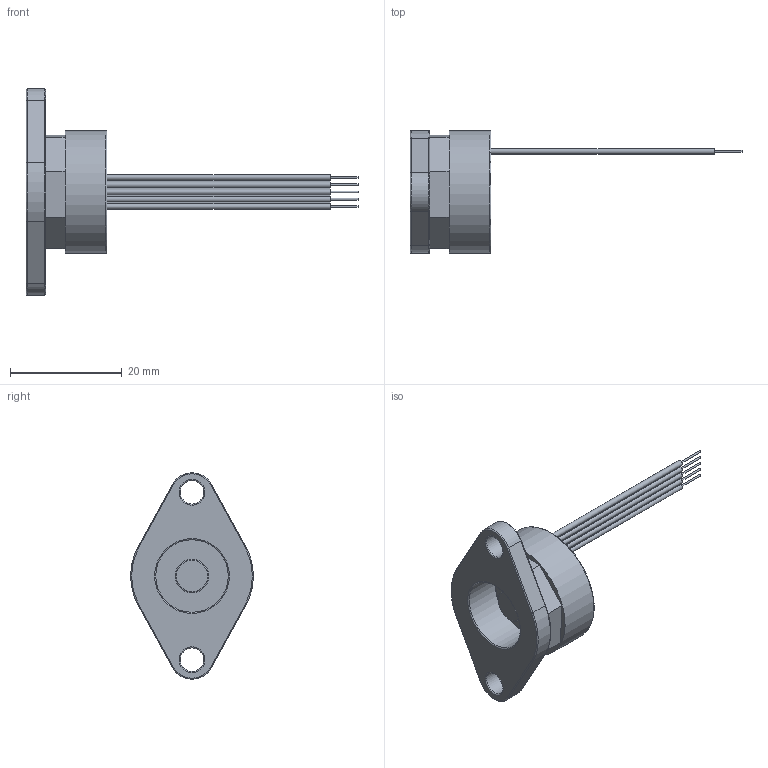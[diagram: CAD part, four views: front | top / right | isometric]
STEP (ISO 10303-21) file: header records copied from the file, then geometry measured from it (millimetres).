
FILE_DESCRIPTION (( 'STEP AP214' ), '1' );
FILE_NAME ('XXXXXX_0168.2.1_Kit_00.STEP', '2018-05-30T12:26:10', ( '' ), ( '' ), 'SwSTEP 2.0', 'SolidWorks 2017', '' );
FILE_SCHEMA (( 'AUTOMOTIVE_DESIGN' ));
Length unit declared in the file: millimetre
Products named in the file (12): 122551_0055.1.6_Magnet 6x3mm_00; 09_VergusmasseR022_00; 01_Gehäuse_RO22_00; XXXXXX_0168.2.1_Kit_00; 129208_0168.1.2_HalteFlansch_00; 05_Flachbandkabel5x150_00
Assembly tree (7 placements, depth 2):
  09_VergusmasseR022_00
  XXXXXX_0168.2.1_Kit_00
    129208_0168.1.2_HalteFlansch_00
    01_Gehäuse_RO22_00
  XXXXXX_0168.2.1_Kit_00
    129208_0168.1.2_HalteFlansch_00
    01_Gehäuse_RO22_00
    09_VergusmasseR022_00
    05_Flachbandkabel5x150_00
    122551_0055.1.6_Magnet 6x3mm_00
  122551_0055.1.6_Magnet 6x3mm_00
  05_Flachbandkabel5x150_00
Bounding box: 59.5 x 22 x 36.97 mm (x, y, z)
Volume: 4074.6 mm3; surface area: 5506.5 mm2
Topology: 6 solids, 6 shells, 118 faces, 252 edges, 164 vertices
Faces by surface type: plane 48, cylinder 42, torus 28
Full cylindrical faces by diameter (mm): 0.35 x11, 4.2 x2, 6 x1, 13 x1, 14.918 x1, 16 x1, 17 x1, 18.5 x1, 20 x1, 20.1 x1, 22 x1
Entity records: 3938 total; most frequent: CARTESIAN_POINT 729, DIRECTION 566, ORIENTED_EDGE 416, AXIS2_PLACEMENT_3D 243, EDGE_CURVE 208, EDGE_LOOP 174, VERTEX_POINT 152, FACE_OUTER_BOUND 152
